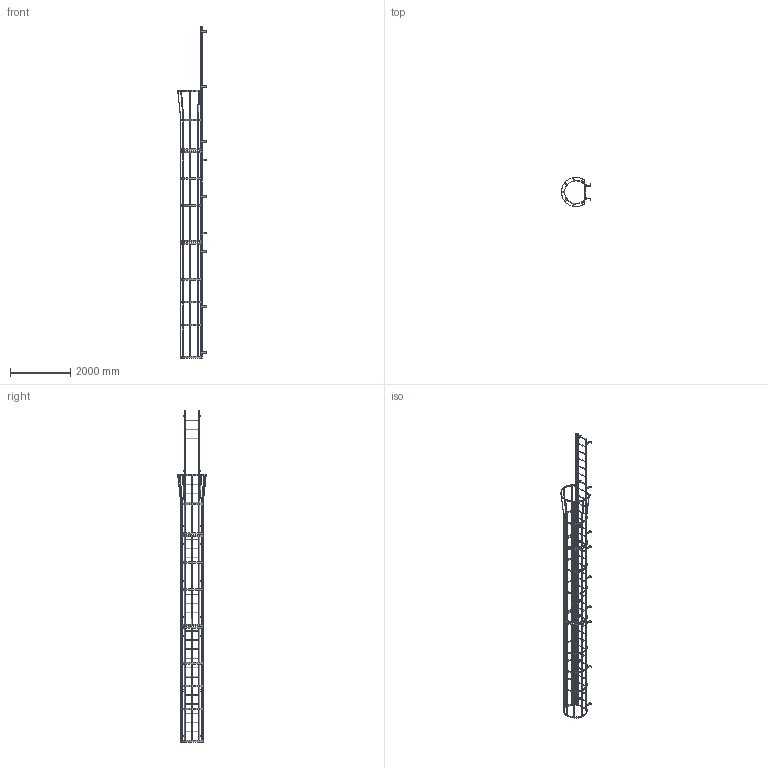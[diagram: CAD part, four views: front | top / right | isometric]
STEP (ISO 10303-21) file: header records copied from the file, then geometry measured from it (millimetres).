
FILE_DESCRIPTION(/* description */ (''),/* implementation_level */ '2;1');
FILE_NAME(/* name */ 'P:\MIKEL & KAREN\3570368 F37SC SIMPLIFIED PART.stp',/* time_stamp */ '2018-07-02T16:09:00-04:00',/* author */ ('stephanie'),/* organization */ (''),/* preprocessor_version */ 'ST-DEVELOPER v16.1',/* originating_system */ 'Autodesk Inventor 2016',/* authorisation */ '');
FILE_SCHEMA (('AUTOMOTIVE_DESIGN { 1 0 10303 214 3 1 1 }'));
Length unit declared in the file: centimetre
Products named in the file (1): 3570368 F37SC SIMPLIFIED PART
Bounding box: 974.15 x 977.88 x 11049 mm (x, y, z)
Volume: 38381129.5 mm3; surface area: 13691281.9 mm2
Topology: 55 solids, 55 shells, 1089 faces, 3259 edges, 2096 vertices
Faces by surface type: plane 714, cylinder 375
Full cylindrical faces by diameter (mm): 14.287 x22, 19.05 x37, 22.225 x74
Entity records: 36994 total; most frequent: ORIENTED_EDGE 6312, CARTESIAN_POINT 6120, DIRECTION 6112, EDGE_CURVE 3030, LINE 2128, VECTOR 2128, VERTEX_POINT 2000, AXIS2_PLACEMENT_3D 1992
